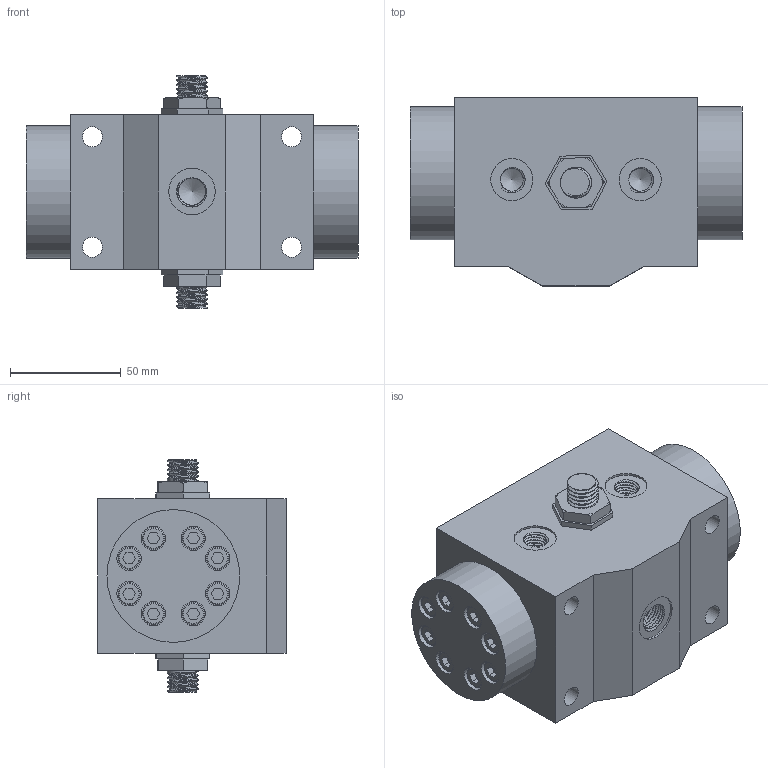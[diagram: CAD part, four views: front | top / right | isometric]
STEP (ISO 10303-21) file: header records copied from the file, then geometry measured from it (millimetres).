
FILE_DESCRIPTION(/* description */ (''),/* implementation_level */ '2;1');
FILE_NAME(/* name */ '3-1.prt.stp',/* time_stamp */ '2023-05-03T15:30:51+08:00',/* author */ (''),/* organization */ (''),/* preprocessor_version */ 'ST-DEVELOPER v16.7',/* originating_system */ 'SIEMENS PLM Software NX 12.0',/* authorisation */ '');
FILE_SCHEMA (('AUTOMOTIVE_DESIGN { 1 0 10303 214 3 1 1 1 }'));
Length unit declared in the file: millimetre
Products named in the file (1): 3-1
Bounding box: 150 x 85 x 105 mm (x, y, z)
Volume: 701810.7 mm3; surface area: 110238.7 mm2
Topology: 25 solids, 25 shells, 505 faces, 1238 edges, 818 vertices
Faces by surface type: plane 298, cylinder 131, cone 35, torus 28, bspline 13
Full cylindrical faces by diameter (mm): 5 x16, 6 x16, 7 x16, 9 x4, 10 x16, 11 x16, 19 x2, 21 x1, 60 x2
Entity records: 23867 total; most frequent: CARTESIAN_POINT 12614, DIRECTION 2243, ORIENTED_EDGE 2004, EDGE_CURVE 1002, AXIS2_PLACEMENT_3D 826, EDGE_LOOP 768, VERTEX_POINT 757, LINE 591
